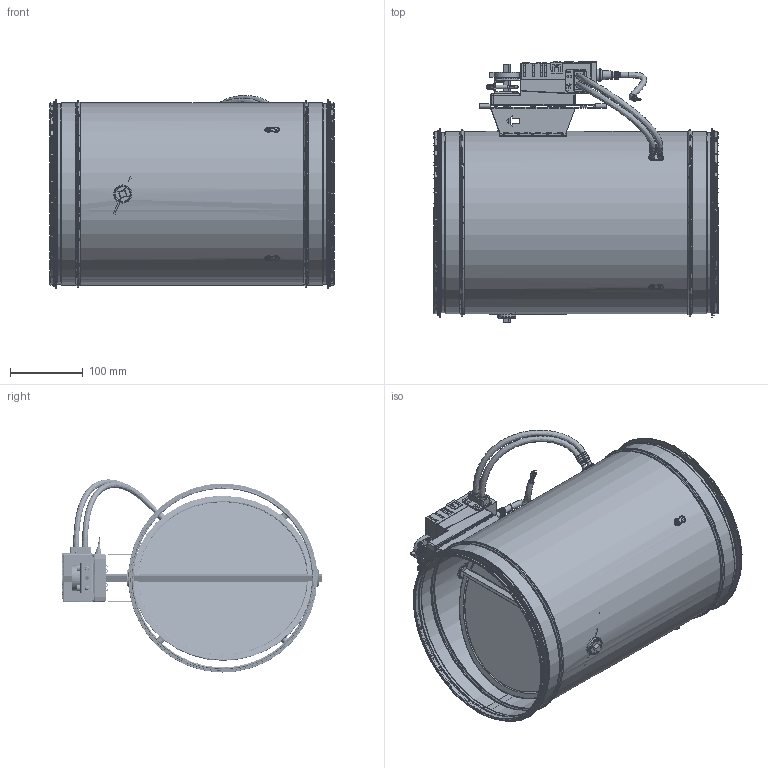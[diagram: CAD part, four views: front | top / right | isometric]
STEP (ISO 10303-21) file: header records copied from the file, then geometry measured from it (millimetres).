
FILE_DESCRIPTION (( 'STEP AP214' ), '1' );
FILE_NAME ('VAV-R250.STEP', '2025-03-10T09:14:23', ( '' ), ( '' ), 'SwSTEP 2.0', 'SolidWorks 2025', '' );
FILE_SCHEMA (( 'AUTOMOTIVE_DESIGN' ));
Length unit declared in the file: millimetre
Products named in the file (19): LDE_DN250; VAV-R250; Dichtung_innenxxx_x_x; CROSS_WING250; Dichtung_Vierkantxxx_x_x; Sicherungsscheibexxx_x_x; Dichtungen; CROSS_DN250; VSRV_Zapfen; LMV-D3-MP; Teil1^VAV-R250; BLECHSCHRAUBE; Label VAVR250; CROSS_PLUG; DB_DN250; CROSS_PIECE; Abschlusskappexxx_x_x; KLAPPE250; BELIMO_MOTOR BRACKET_DN300-400
Assembly tree (27 placements, depth 3):
  VAV-R250
    DB_DN250
    BELIMO_MOTOR BRACKET_DN300-400
    CROSS_DN250
      CROSS_PIECE
      CROSS_WING250  x4
      CROSS_PLUG  x3
      VSRV_Zapfen
    LDE_DN250  x2
    BLECHSCHRAUBE  x3
    LMV-D3-MP
    Dichtungen  x2
      Abschlusskappexxx_x_x
      Dichtung_innenxxx_x_x
      Dichtung_Vierkantxxx_x_x
      Sicherungsscheibexxx_x_x
    KLAPPE250
    Label VAVR250
    Teil1^VAV-R250
Bounding box: 390.34 x 357.4 x 265.34 mm (x, y, z)
Volume: 345407.4 mm3; surface area: 1020918.7 mm2
Topology: 30 solids, 48 shells, 6673 faces, 18034 edges, 11835 vertices
Faces by surface type: plane 2938, bspline 2459, cylinder 1022, torus 133, cone 91, sphere 30
Full cylindrical faces by diameter (mm): 1 x4, 1.911 x6, 2 x25, 2.5 x6, 3.5 x3, 4 x2, 5 x2, 5.5 x3, 6 x27, 7.5 x2, 8 x24, 8.033 x1, 11 x1, 16 x2, 20 x2, 21 x2, 21.422 x2, 23.5 x2, 25 x2, 245.845 x2, 246.74 x2, 247.4 x2, 249.14 x4, 250 x3, 259.74 x2
Entity records: 352328 total; most frequent: CARTESIAN_POINT 158270, ORIENTED_EDGE 33887, EDGE_CURVE 16965, DIRECTION 15606, VERTEX_POINT 11260, B_SPLINE_CURVE_WITH_KNOTS 11081, EDGE_LOOP 7074, FACE_OUTER_BOUND 6469
